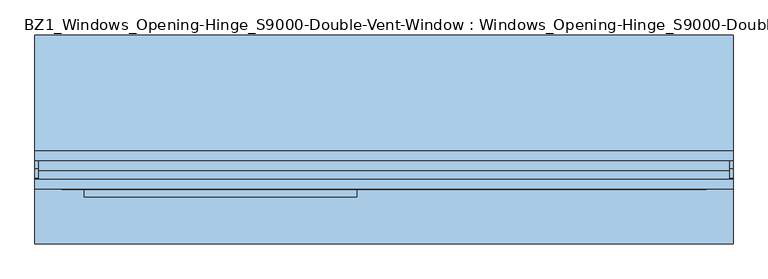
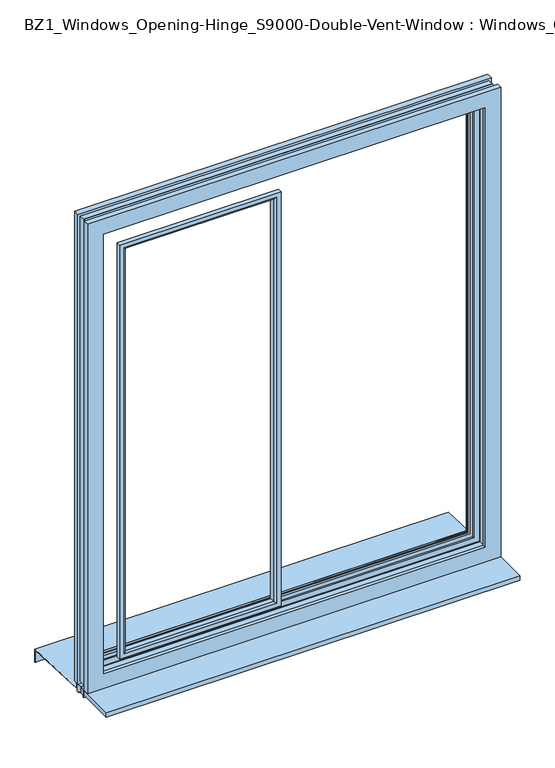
"""IFC4 building model written with IfcOpenShell, lengths in millimetres: window geometry, BZ1_Windows_Opening-Hinge_S9000-Double-Vent-Window : Windows_Opening-Hinge_S9000-Double-Vent-Window."""

from ifc_helpers import new_model, si_unit, point, frame, frame_2d, origin, place, context, project, spatial, polyline, circle_curve, ellipse_curve, trimmed, segment, composite_curve, outline, extrude, faceted_brep, source, transform, mapped, element, save
from ifc_brep_helpers import plane_surface, cylinder_surface, advanced_brep


def bz1_windows_opening_hinge_s9000_double_vent_window_windows_c75da518(model_context):
    return source(origin(), model_context, "Body", "SolidModel", [
        advanced_brep(
        [(-621.8959832, -45.0529143, 2541.8959828), (-627.6915381, -49.5, 2547.6915377), (-627.6915381, -49.5, 992.3084614), (-621.8959832, -45.0529143, 998.1040164), (-618.0012172, -30.5174497, 2538.0012168), (-618.0012172, -30.5174497, 1001.9987824), (-618.0012172, -29.0, 2538.0012168), (-618.0012172, -29.0, 1001.9987824), (-631.1432253, -34.0, 2551.1432248), (-629.8034793, -29.0, 2549.8034789), (-629.8034793, -29.0, 990.1965203), (-631.1432253, -34.0, 988.8567743), (-644.0, -34.0, 2563.9999996), (-644.0, -34.0, 975.9999996), (-644.0, -49.5, 975.9999996), (-644.0, -49.5, 2563.9999996), (-75.3084619, -49.5, 992.3084614), (-81.1040168, -45.0529143, 998.1040164), (-84.9987828, -30.5174497, 1001.9987824), (-84.9987828, -29.0, 1001.9987824), (-73.1965207, -29.0, 990.1965203), (-71.8567747, -34.0, 988.8567743), (-59.0, -34.0, 975.9999996), (-59.0, -49.5, 975.9999996), (-75.3084619, -49.5, 2547.6915377), (-81.1040168, -45.0529143, 2541.8959828), (-84.9987828, -30.5174497, 2538.0012168), (-84.9987828, -29.0, 2538.0012168), (-73.1965207, -29.0, 2549.8034789), (-71.8567747, -34.0, 2551.1432248), (-59.0, -34.0, 2563.9999996), (-59.0, -49.5, 2563.9999996)],
        [
            (0, 1, ellipse_curve(frame((-627.6915381, -43.5, 2547.6915377), z_axis=(-0.707106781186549, 0.0, -0.7071067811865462), x_axis=(-0.7071067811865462, 0.0, 0.7071067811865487)), 8.4852814, 6.0)),
            (1, 2),
            (2, 3, ellipse_curve(frame((-627.6915381, -43.5, 992.3084614), z_axis=(-0.7071067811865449, 0.0, 0.70710678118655), x_axis=(0.7071067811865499, 0.0, 0.707106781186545)), 8.4852814, 6.0)),
            (3, 0),
            (4, 0),
            (3, 5),
            (5, 4),
            (6, 4),
            (5, 7),
            (7, 6),
            (8, 9),
            (9, 10),
            (10, 11),
            (11, 8),
            (12, 13),
            (13, 14),
            (14, 15),
            (15, 12),
            (2, 16),
            (16, 17, ellipse_curve(frame((-75.3084619, -43.5, 992.3084614), z_axis=(-0.7071067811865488, 0.0, -0.7071067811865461), x_axis=(-0.7071067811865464, 0.0, 0.7071067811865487)), 8.4852814, 6.0)),
            (17, 3),
            (17, 18),
            (18, 5),
            (18, 19),
            (19, 7),
            (10, 20),
            (20, 21),
            (21, 11),
            (13, 22),
            (22, 23),
            (23, 14),
            (16, 24),
            (24, 25, ellipse_curve(frame((-75.3084619, -43.5, 2547.6915377), z_axis=(0.7071067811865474, 0.0, -0.7071067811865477), x_axis=(-0.7071067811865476, 0.0, -0.7071067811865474)), 8.4852814, 6.0)),
            (25, 17),
            (25, 26),
            (26, 18),
            (26, 27),
            (27, 19),
            (20, 28),
            (28, 29),
            (29, 21),
            (22, 30),
            (30, 31),
            (31, 23),
            (24, 1),
            (0, 25),
            (4, 26),
            (6, 27),
            (9, 28),
            (8, 29),
            (12, 30),
            (15, 31),
        ],
        [
            cylinder_surface(frame((-627.6915381, -43.5, 2619.9999996), z_axis=(0.0, 0.0, 1.0), x_axis=(0.9659258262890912, -0.2588190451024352, 0.0)), 6.0),
            plane_surface(frame((-621.8959832, -45.0529143, 2541.8959828), z_axis=(0.9659258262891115, -0.25881904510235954, 0.0), x_axis=(0.0, 0.0, -1.0))),
            plane_surface(frame((-618.0012172, -30.5174497, 2538.0012168), z_axis=(1.0, 0.0, 0.0), x_axis=(0.0, 0.0, -1.0))),
            plane_surface(frame((-629.8034793, -29.0, 2549.8034789), z_axis=(-0.9659258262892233, 0.2588190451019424, 0.0), x_axis=(0.0, 0.0, -1.0))),
            plane_surface(frame((-644.0, -48.5, 2563.9999996), z_axis=(-1.0, 0.0, 0.0), x_axis=(0.0, 0.0, -1.0))),
            cylinder_surface(frame((-700.0, -43.5, 992.3084614), z_axis=(-1.0, 0.0, 0.0), x_axis=(0.0, -0.2588190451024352, 0.9659258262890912)), 6.0),
            plane_surface(frame((-621.8959832, -45.0529143, 998.1040164), z_axis=(0.0, -0.25881904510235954, 0.9659258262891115), x_axis=(1.0, 0.0, 0.0))),
            plane_surface(frame((-618.0012172, -30.5174497, 1001.9987824), z_axis=(0.0, 0.0, 1.0), x_axis=(1.0, 0.0, 0.0))),
            plane_surface(frame((-629.8034793, -29.0, 990.1965203), z_axis=(0.0, 0.2588190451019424, -0.9659258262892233), x_axis=(1.0, 0.0, 0.0))),
            plane_surface(frame((-644.0, -48.5, 975.9999996), z_axis=(0.0, 0.0, -1.0), x_axis=(1.0, 0.0, 0.0))),
            cylinder_surface(frame((-75.3084619, -43.5, 919.9999996), z_axis=(0.0, 0.0, -1.0), x_axis=(-0.9659258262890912, -0.2588190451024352, 0.0)), 6.0),
            plane_surface(frame((-81.1040168, -45.0529143, 998.1040164), z_axis=(-0.9659258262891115, -0.25881904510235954, 0.0), x_axis=(0.0, 0.0, 1.0))),
            plane_surface(frame((-84.9987828, -30.5174497, 1001.9987824), z_axis=(-1.0, 0.0, 0.0), x_axis=(0.0, 0.0, 1.0))),
            plane_surface(frame((-73.1965207, -29.0, 990.1965203), z_axis=(0.9659258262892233, 0.2588190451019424, 0.0), x_axis=(0.0, 0.0, 1.0))),
            plane_surface(frame((-59.0, -48.5, 975.9999996), z_axis=(1.0, 0.0, 0.0), x_axis=(0.0, 0.0, 1.0))),
            cylinder_surface(frame((-3.0, -43.5, 2547.6915377), z_axis=(1.0, 0.0, 0.0), x_axis=(0.0, -0.2588190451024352, -0.9659258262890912)), 6.0),
            plane_surface(frame((-81.1040168, -45.0529143, 2541.8959828), z_axis=(0.0, -0.25881904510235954, -0.9659258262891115), x_axis=(-1.0, 0.0, 0.0))),
            plane_surface(frame((-84.9987828, -30.5174497, 2538.0012168), z_axis=(0.0, 0.0, -1.0), x_axis=(-1.0, 0.0, 0.0))),
            plane_surface(frame((-84.9987828, -29.0, 2538.0012168), z_axis=(0.0, 1.0, 0.0), x_axis=(-1.0, 0.0, 0.0))),
            plane_surface(frame((-73.1965207, -29.0, 2549.8034789), z_axis=(0.0, 0.2588190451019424, 0.9659258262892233), x_axis=(-1.0, 0.0, 0.0))),
            plane_surface(frame((-71.8567747, -34.0, 2551.1432248), z_axis=(0.0, 1.0, 0.0), x_axis=(-1.0, 0.0, 0.0))),
            plane_surface(frame((-59.0, -48.5, 2563.9999996), z_axis=(0.0, 0.0, 1.0), x_axis=(-1.0, 0.0, 0.0))),
            plane_surface(frame((-59.0, -49.5, 2563.9999996), z_axis=(0.0, -1.0, 0.0), x_axis=(-1.0, 0.0, 0.0))),
        ],
        [
            (0, [[1, 2, 3, 4]]),
            (1, [[5, -4, 6, 7]]),
            (2, [[8, -7, 9, 10]]),
            (3, [[11, 12, 13, 14]]),
            (4, [[15, 16, 17, 18]]),
            (5, [[-3, 19, 20, 21]]),
            (6, [[-6, -21, 22, 23]]),
            (7, [[-9, -23, 24, 25]]),
            (8, [[-13, 26, 27, 28]]),
            (9, [[-16, 29, 30, 31]]),
            (10, [[-20, 32, 33, 34]]),
            (11, [[-22, -34, 35, 36]]),
            (12, [[-24, -36, 37, 38]]),
            (13, [[-27, 39, 40, 41]]),
            (14, [[-30, 42, 43, 44]]),
            (15, [[-33, 45, -1, 46]]),
            (16, [[-35, -46, -5, 47]]),
            (17, [[-37, -47, -8, 48]]),
            (18, [[49, -39, -26, -12], [-25, -38, -48, -10]]),
            (19, [[-40, -49, -11, 50]]),
            (20, [[51, -42, -29, -15], [-28, -41, -50, -14]]),
            (21, [[-43, -51, -18, 52]]),
            (22, [[-31, -44, -52, -17], [-45, -32, -19, -2]]),
        ],
    ),
        extrude(outline(polyline([(33.5, 840.0), (24.25, 840.0), (24.25, 848.0), (12.5, 848.0), (12.5, 870.0), (33.5, 870.0), (33.5, 840.0)])), frame((-750.0, 0.0, 0.0), z_axis=(1.0, 0.0, 0.0), x_axis=(0.0, 1.0, 0.0)), (0.0, 0.0, 1.0), 1500.0),
        extrude(outline(polyline([(-4.25, 840.0), (-8.0, 840.0), (-8.0, 870.0), (12.5, 870.0), (12.5, 848.0), (-4.25, 848.0), (-4.25, 840.0)])), frame((-750.0, 0.0, 0.0), z_axis=(1.0, 0.0, 0.0), x_axis=(0.0, 1.0, 0.0)), (0.0, 0.0, 1.0), 1500.0),
        advanced_brep(
        [(666.0, 36.02771, 2586.0), (668.5522708, 45.5529143, 2588.5522708), (668.5522708, 45.5529143, 951.4477292), (666.0, 36.02771, 954.0), (666.0, 35.0, 2586.0), (666.0, 35.0, 954.0), (696.1, 20.9886714, 2616.1), (699.0781998, 35.0, 2619.0781998), (699.0781998, 35.0, 920.9218002), (696.1, 20.9886714, 923.9), (696.1, 7.5, 2616.1), (696.1, 7.5, 923.9), (742.0, 29.0, 2662.0), (742.0, 7.5, 2662.0), (742.0, 7.5, 878.0), (742.0, 29.0, 878.0), (750.0, 50.0, 2670.0), (750.0, 29.0, 2670.0), (750.0, 29.0, 870.0), (750.0, 50.0, 870.0), (674.3478258, 50.0, 2594.3478258), (674.3478258, 50.0, 945.6521742), (-668.5522708, 45.5529143, 951.4477292), (-666.0, 36.02771, 954.0), (-666.0, 35.0, 954.0), (-699.0781998, 35.0, 920.9218002), (-696.1, 20.9886714, 923.9), (-696.1, 7.5, 923.9), (-742.0, 7.5, 878.0), (-742.0, 29.0, 878.0), (-750.0, 29.0, 870.0), (-750.0, 50.0, 870.0), (-674.3478258, 50.0, 945.6521742), (-668.5522708, 45.5529143, 2588.5522708), (-666.0, 36.02771, 2586.0), (-666.0, 35.0, 2586.0), (-699.0781998, 35.0, 2619.0781998), (-696.1, 20.9886714, 2616.1), (-696.1, 7.5, 2616.1), (-742.0, 7.5, 2662.0), (-742.0, 29.0, 2662.0), (-750.0, 29.0, 2670.0), (-750.0, 50.0, 2670.0), (-674.3478258, 50.0, 2594.3478258)],
        [
            (0, 1),
            (1, 2),
            (2, 3),
            (3, 0),
            (4, 0),
            (3, 5),
            (5, 4),
            (6, 7),
            (7, 8),
            (8, 9),
            (9, 6),
            (10, 6),
            (9, 11),
            (11, 10),
            (12, 13),
            (13, 14),
            (14, 15),
            (15, 12),
            (16, 17),
            (17, 18),
            (18, 19),
            (19, 16),
            (1, 20, ellipse_curve(frame((674.3478258, 44.0, 2594.3478258), z_axis=(0.7071067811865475, 0.0, -0.7071067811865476), x_axis=(0.7071067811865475, 0.0, 0.7071067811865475)), 8.4852814, 6.0)),
            (20, 21),
            (21, 2, ellipse_curve(frame((674.3478258, 44.0, 945.6521742), z_axis=(0.7071067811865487, 0.0, 0.7071067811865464), x_axis=(-0.7071067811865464, 0.0, 0.7071067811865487)), 8.4852814, 6.0)),
            (2, 22),
            (22, 23),
            (23, 3),
            (23, 24),
            (24, 5),
            (8, 25),
            (25, 26),
            (26, 9),
            (26, 27),
            (27, 11),
            (14, 28),
            (28, 29),
            (29, 15),
            (18, 30),
            (30, 31),
            (31, 19),
            (21, 32),
            (32, 22, ellipse_curve(frame((-674.3478258, 44.0, 945.6521742), z_axis=(0.7071067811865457, 0.0, -0.7071067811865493), x_axis=(0.7071067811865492, 0.0, 0.7071067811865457)), 8.4852814, 6.0)),
            (22, 33),
            (33, 34),
            (34, 23),
            (34, 35),
            (35, 24),
            (25, 36),
            (36, 37),
            (37, 26),
            (37, 38),
            (38, 27),
            (28, 39),
            (39, 40),
            (40, 29),
            (30, 41),
            (41, 42),
            (42, 31),
            (32, 43),
            (43, 33, ellipse_curve(frame((-674.3478258, 44.0, 2594.3478258), z_axis=(-0.7071067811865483, 0.0, -0.7071067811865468), x_axis=(0.7071067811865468, 0.0, -0.7071067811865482)), 8.4852814, 6.0)),
            (33, 1),
            (0, 34),
            (4, 35),
            (7, 36),
            (6, 37),
            (10, 38),
            (13, 39),
            (12, 40),
            (17, 41),
            (16, 42),
            (20, 43),
        ],
        [
            plane_surface(frame((668.5522708, 45.5529143, 2588.5522708), z_axis=(-0.9659258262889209, 0.25881904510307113, 0.0), x_axis=(0.0, 0.0, -1.0))),
            plane_surface(frame((666.0, 36.02771, 2586.0), z_axis=(-1.0, 0.0, 0.0), x_axis=(0.0, 0.0, -1.0))),
            plane_surface(frame((699.0781998, 35.0, 2619.0781998), z_axis=(-0.9781476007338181, 0.20791169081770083, 0.0), x_axis=(0.0, 0.0, -1.0))),
            plane_surface(frame((696.1, 20.9886714, 2616.1), z_axis=(-1.0, 0.0, 0.0), x_axis=(0.0, 0.0, -1.0))),
            plane_surface(frame((742.0, 7.5, 2662.0), z_axis=(1.0, 0.0, 0.0), x_axis=(0.0, 0.0, -1.0))),
            plane_surface(frame((750.0, 29.0, 2670.0), z_axis=(1.0, 0.0, 0.0), x_axis=(0.0, 0.0, -1.0))),
            cylinder_surface(frame((674.3478258, 44.0, 2670.0), z_axis=(0.0, 0.0, 1.0), x_axis=(0.0, 1.0, 0.0)), 6.0),
            plane_surface(frame((668.5522708, 45.5529143, 951.4477292), z_axis=(0.0, 0.25881904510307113, 0.9659258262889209), x_axis=(-1.0, 0.0, 0.0))),
            plane_surface(frame((666.0, 36.02771, 954.0), z_axis=(0.0, 0.0, 1.0), x_axis=(-1.0, 0.0, 0.0))),
            plane_surface(frame((699.0781998, 35.0, 920.9218002), z_axis=(0.0, 0.20791169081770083, 0.9781476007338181), x_axis=(-1.0, 0.0, 0.0))),
            plane_surface(frame((696.1, 20.9886714, 923.9), z_axis=(0.0, 0.0, 1.0), x_axis=(-1.0, 0.0, 0.0))),
            plane_surface(frame((742.0, 7.5, 878.0), z_axis=(0.0, 0.0, -1.0), x_axis=(-1.0, 0.0, 0.0))),
            plane_surface(frame((750.0, 29.0, 870.0), z_axis=(0.0, 0.0, -1.0), x_axis=(-1.0, 0.0, 0.0))),
            cylinder_surface(frame((750.0, 44.0, 945.6521742), z_axis=(1.0, 0.0, 0.0), x_axis=(0.0, 1.0, 0.0)), 6.0),
            plane_surface(frame((-668.5522708, 45.5529143, 951.4477292), z_axis=(0.9659258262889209, 0.25881904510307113, 0.0), x_axis=(0.0, 0.0, 1.0))),
            plane_surface(frame((-666.0, 36.02771, 954.0), z_axis=(1.0, 0.0, 0.0), x_axis=(0.0, 0.0, 1.0))),
            plane_surface(frame((-699.0781998, 35.0, 920.9218002), z_axis=(0.9781476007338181, 0.20791169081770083, 0.0), x_axis=(0.0, 0.0, 1.0))),
            plane_surface(frame((-696.1, 20.9886714, 923.9), z_axis=(1.0, 0.0, 0.0), x_axis=(0.0, 0.0, 1.0))),
            plane_surface(frame((-742.0, 7.5, 878.0), z_axis=(-1.0, 0.0, 0.0), x_axis=(0.0, 0.0, 1.0))),
            plane_surface(frame((-750.0, 29.0, 870.0), z_axis=(-1.0, 0.0, 0.0), x_axis=(0.0, 0.0, 1.0))),
            cylinder_surface(frame((-674.3478258, 44.0, 870.0), z_axis=(0.0, 0.0, -1.0), x_axis=(0.0, 1.0, 0.0)), 6.0),
            plane_surface(frame((-668.5522708, 45.5529143, 2588.5522708), z_axis=(0.0, 0.25881904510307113, -0.9659258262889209), x_axis=(1.0, 0.0, 0.0))),
            plane_surface(frame((-666.0, 36.02771, 2586.0), z_axis=(0.0, 0.0, -1.0), x_axis=(1.0, 0.0, 0.0))),
            plane_surface(frame((-667.0, 35.0, 2587.0), z_axis=(0.0, -1.0, 0.0), x_axis=(1.0, 0.0, 0.0))),
            plane_surface(frame((-699.0781998, 35.0, 2619.0781998), z_axis=(0.0, 0.20791169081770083, -0.9781476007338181), x_axis=(1.0, 0.0, 0.0))),
            plane_surface(frame((-696.1, 20.9886714, 2616.1), z_axis=(0.0, 0.0, -1.0), x_axis=(1.0, 0.0, 0.0))),
            plane_surface(frame((-696.1, 7.5, 2616.1), z_axis=(0.0, -1.0, 0.0), x_axis=(1.0, 0.0, 0.0))),
            plane_surface(frame((-742.0, 7.5, 2662.0), z_axis=(0.0, 0.0, 1.0), x_axis=(1.0, 0.0, 0.0))),
            plane_surface(frame((-742.0, 29.0, 2662.0), z_axis=(0.0, -1.0, 0.0), x_axis=(1.0, 0.0, 0.0))),
            plane_surface(frame((-750.0, 29.0, 2670.0), z_axis=(0.0, 0.0, 1.0), x_axis=(1.0, 0.0, 0.0))),
            plane_surface(frame((-750.0, 50.0, 2670.0), z_axis=(0.0, 1.0, 0.0), x_axis=(1.0, 0.0, 0.0))),
            cylinder_surface(frame((-750.0, 44.0, 2594.3478258), z_axis=(-1.0, 0.0, 0.0), x_axis=(0.0, 1.0, 0.0)), 6.0),
        ],
        [
            (0, [[1, 2, 3, 4]]),
            (1, [[5, -4, 6, 7]]),
            (2, [[8, 9, 10, 11]]),
            (3, [[12, -11, 13, 14]]),
            (4, [[15, 16, 17, 18]]),
            (5, [[19, 20, 21, 22]]),
            (6, [[23, 24, 25, -2]]),
            (7, [[-3, 26, 27, 28]]),
            (8, [[-6, -28, 29, 30]]),
            (9, [[-10, 31, 32, 33]]),
            (10, [[-13, -33, 34, 35]]),
            (11, [[-17, 36, 37, 38]]),
            (12, [[-21, 39, 40, 41]]),
            (13, [[-25, 42, 43, -26]]),
            (14, [[-27, 44, 45, 46]]),
            (15, [[-29, -46, 47, 48]]),
            (16, [[-32, 49, 50, 51]]),
            (17, [[-34, -51, 52, 53]]),
            (18, [[-37, 54, 55, 56]]),
            (19, [[-40, 57, 58, 59]]),
            (20, [[-43, 60, 61, -44]]),
            (21, [[-45, 62, -1, 63]]),
            (22, [[-47, -63, -5, 64]]),
            (23, [[65, -49, -31, -9], [-30, -48, -64, -7]]),
            (24, [[-50, -65, -8, 66]]),
            (25, [[-52, -66, -12, 67]]),
            (26, [[68, -54, -36, -16], [-35, -53, -67, -14]]),
            (27, [[-55, -68, -15, 69]]),
            (28, [[70, -57, -39, -20], [-38, -56, -69, -18]]),
            (29, [[-58, -70, -19, 71]]),
            (30, [[-41, -59, -71, -22], [72, -60, -42, -24]]),
            (31, [[-61, -72, -23, -62]]),
        ],
    ),
        faceted_brep([(692.0, -32.5, 2612.0), (692.0, -21.25, 2612.0), (692.0, -21.25, 928.0), (692.0, -32.5, 928.0), (750.0, -32.5, 2670.0), (750.0, -32.5, 870.0), (750.0, -11.5, 870.0), (750.0, -11.5, 2670.0), (742.0, 7.5, 2662.0), (742.0, -11.5, 2662.0), (742.0, -11.5, 878.0), (742.0, 7.5, 878.0), (696.1, -21.25, 2616.1), (696.1, 7.5, 2616.1), (696.1, 7.5, 923.9), (696.1, -21.25, 923.9), (-692.0, -21.25, 928.0), (-692.0, -32.5, 928.0), (-750.0, -32.5, 870.0), (-750.0, -11.5, 870.0), (-742.0, -11.5, 878.0), (-742.0, 7.5, 878.0), (-696.1, 7.5, 923.9), (-696.1, -21.25, 923.9), (-692.0, -21.25, 2612.0), (-692.0, -32.5, 2612.0), (-750.0, -32.5, 2670.0), (-750.0, -11.5, 2670.0), (-742.0, -11.5, 2662.0), (-742.0, 7.5, 2662.0), (-696.1, 7.5, 2616.1), (-696.1, -21.25, 2616.1)], [[[0, 1, 2, 3]], [[4, 5, 6, 7]], [[8, 9, 10, 11]], [[12, 13, 14, 15]], [[3, 2, 16, 17]], [[6, 5, 18, 19]], [[11, 10, 20, 21]], [[15, 14, 22, 23]], [[17, 16, 24, 25]], [[19, 18, 26, 27]], [[21, 20, 28, 29]], [[23, 22, 30, 31]], [[25, 24, 1, 0]], [[4, 26, 18, 5], [3, 17, 25, 0]], [[27, 26, 4, 7]], [[6, 19, 27, 7], [9, 28, 20, 10]], [[29, 28, 9, 8]], [[11, 21, 29, 8], [13, 30, 22, 14]], [[31, 30, 13, 12]], [[15, 23, 31, 12], [1, 24, 16, 2]]]),
        extrude(outline(polyline([(923.9, -696.1), (923.9, 696.1), (2616.1, 696.1), (2616.1, -696.1), (923.9, -696.1)]), holes=[polyline([(2595.0, -675.0), (2595.0, 675.0), (945.0, 675.0), (945.0, -675.0), (2595.0, -675.0)])]), frame((0.0, 10.0, 0.0), z_axis=(0.0, 1.0, 0.0), x_axis=(0.0, 0.0, 1.0)), (0.0, 0.0, 1.0), 5.3),
        extrude(outline(polyline([(946.2, -673.8), (946.2, 673.8), (2593.8, 673.8), (2593.8, -673.8), (946.2, -673.8)]), holes=[polyline([(2586.0, -666.0), (2586.0, 666.0), (954.0, 666.0), (954.0, -666.0), (2586.0, -666.0)])]), frame((0.0, 31.5, 0.0), z_axis=(0.0, 1.0, 0.0), x_axis=(0.0, 0.0, 1.0)), (0.0, 0.0, 1.0), 3.5),
        extrude(outline(composite_curve([segment(polyline([(35.5, 870.0), (35.5, 851.5), (299.5, 839.5549957), (299.5, 792.369195)]), True, "CONTINUOUS"), segment(trimmed(circle_curve(frame_2d((298.5, 792.369195)), 1.0), [point((299.5, 792.369195))], [point((297.5, 792.369195))], False, "CARTESIAN"), True, "CONTINUOUS"), segment(polyline([(297.5, 792.369195), (297.5, 837.8767964), (33.5, 849.8218007), (33.5, 870.0), (35.5, 870.0)]), True, "CONTINUOUS")], self_intersect=False)), frame((-750.0, 0.0, 0.0), z_axis=(1.0, 0.0, 0.0), x_axis=(0.0, 1.0, 0.0)), (0.0, 0.0, 1.0), 1500.0),
        extrude(outline(polyline([(750.0, -150.0), (-750.0, -150.0), (-750.0, -8.0), (750.0, -8.0), (750.0, -150.0)])), frame((0.0, 0.0, 851.5), z_axis=(0.0, 0.0, 1.0), x_axis=(1.0, 0.0, 0.0)), (0.0, 0.0, 1.0), 18.5),
    ])


if __name__ == "__main__":
    model = new_model("IFC4")
    model_context = context("Model", 3, world=origin())
    ifc_project = project(units=[si_unit("LENGTHUNIT", "METRE", prefix="MILLI")], contexts=[model_context])
    site = spatial("IfcSite", under=ifc_project)
    building = spatial("IfcBuilding", under=site)
    placement = place(None, origin())
    bz1_windows_opening_hinge_s9000_double_vent_window_windows_shape = bz1_windows_opening_hinge_s9000_double_vent_window_windows_c75da518(model_context)
    element("IfcWindow", 1, ObjectType="BZ1_Windows_Opening-Hinge_S9000-Double-Vent-Window : Windows_Opening-Hinge_S9000-Double-Vent-Window", at=placement, inside=building, context=model_context, shape_type="MappedRepresentation", body=[
        mapped(bz1_windows_opening_hinge_s9000_double_vent_window_windows_shape, transform((0.0, 0.0, 0.0), x_axis=(1.0, 0.0, 0.0), y_axis=(0.0, 1.0, 0.0), z_axis=(0.0, 0.0, 1.0))),
    ])
    save(model, "model.ifc")
